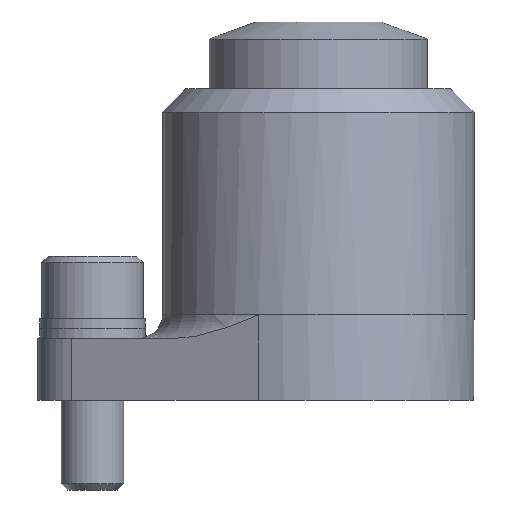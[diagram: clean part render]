
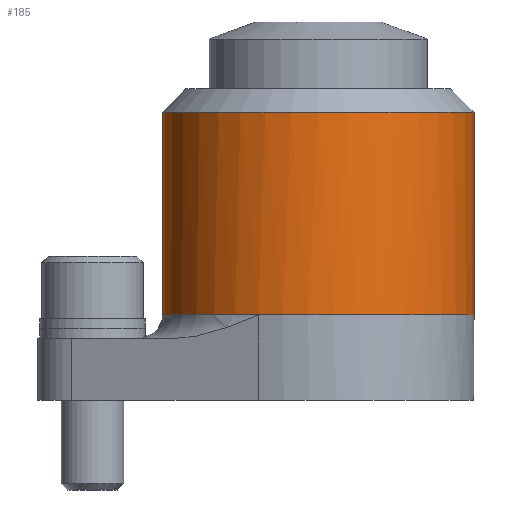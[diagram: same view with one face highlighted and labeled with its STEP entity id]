
A CAD part, front view. The second image highlights one B-rep face of the part: STEP entity #185.
In plain terms, the highlighted cylindrical face has radius 20 mm (diameter 40 mm), a partial arc.
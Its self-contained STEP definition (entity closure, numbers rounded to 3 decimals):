
#185=ADVANCED_FACE('',(#298),#260,.T.);
#260=CYLINDRICAL_SURFACE('',#1333,20.);
#298=FACE_OUTER_BOUND('',#362,.T.);
#362=EDGE_LOOP('',(#566,#567,#568,#569,#570));
#448=CIRCLE('',#1308,20.);
#466=CIRCLE('',#1331,20.);
#467=CIRCLE('',#1332,20.);
#566=ORIENTED_EDGE('',*,*,#983,.T.);
#567=ORIENTED_EDGE('',*,*,#1008,.T.);
#568=ORIENTED_EDGE('',*,*,#1009,.F.);
#569=ORIENTED_EDGE('',*,*,#1006,.F.);
#570=ORIENTED_EDGE('',*,*,#1010,.T.);
#874=VERTEX_POINT('',#1881);
#875=VERTEX_POINT('',#1883);
#893=VERTEX_POINT('',#1927);
#894=VERTEX_POINT('',#1929);
#895=VERTEX_POINT('',#1931);
#983=EDGE_CURVE('',#875,#874,#448,.T.);
#1006=EDGE_CURVE('',#893,#894,#1157,.T.);
#1008=EDGE_CURVE('',#874,#895,#1158,.T.);
#1009=EDGE_CURVE('',#894,#895,#466,.T.);
#1010=EDGE_CURVE('',#893,#875,#467,.T.);
#1157=LINE('',#1928,#1235);
#1158=LINE('',#1932,#1236);
#1235=VECTOR('',#1523,1.);
#1236=VECTOR('',#1526,1.);
#1308=AXIS2_PLACEMENT_3D('',#1882,#1475,#1476);
#1331=AXIS2_PLACEMENT_3D('',#1934,#1529,#1530);
#1332=AXIS2_PLACEMENT_3D('',#1935,#1531,#1532);
#1333=AXIS2_PLACEMENT_3D('',#1936,#1533,#1534);
#1475=DIRECTION('',(0.,0.,1.));
#1476=DIRECTION('',(-0.477,-0.879,0.));
#1523=DIRECTION('',(0.,0.,1.));
#1526=DIRECTION('',(0.,0.,1.));
#1529=DIRECTION('',(0.,0.,1.));
#1530=DIRECTION('',(0.,1.,0.));
#1531=DIRECTION('',(0.,0.,1.));
#1532=DIRECTION('',(0.,1.,0.));
#1533=DIRECTION('',(0.,0.,1.));
#1534=DIRECTION('',(0.,-1.,0.));
#1881=CARTESIAN_POINT('',(20.,0.,11.));
#1882=CARTESIAN_POINT('',(0.,0.,11.));
#1883=CARTESIAN_POINT('',(-7.692,-18.462,11.));
#1927=CARTESIAN_POINT('',(-20.,0.,11.));
#1928=CARTESIAN_POINT('',(-20.,0.,37.));
#1929=CARTESIAN_POINT('',(-20.,0.,37.));
#1931=CARTESIAN_POINT('',(20.,0.,37.));
#1932=CARTESIAN_POINT('',(20.,0.,37.));
#1934=CARTESIAN_POINT('',(0.,0.,37.));
#1935=CARTESIAN_POINT('',(0.,0.,11.));
#1936=CARTESIAN_POINT('',(0.,0.,0.));
